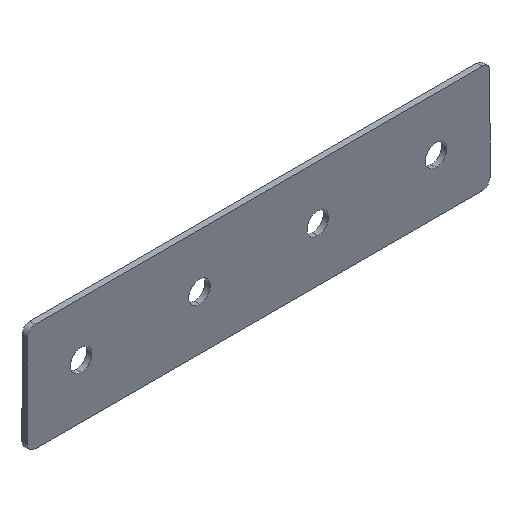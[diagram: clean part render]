
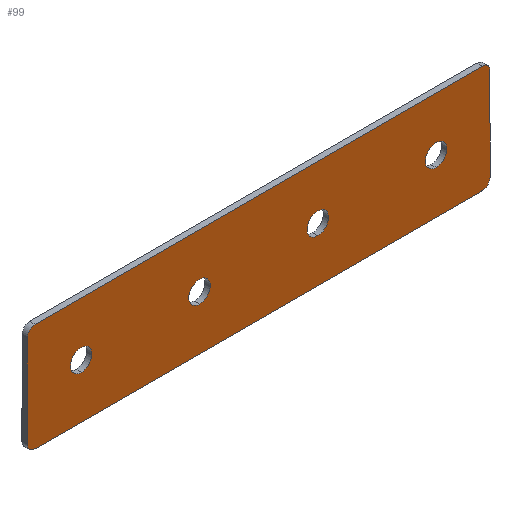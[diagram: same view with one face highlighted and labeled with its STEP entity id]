
A CAD part, isometric view. The second image highlights one B-rep face of the part: STEP entity #99.
In plain terms, the highlighted planar face has unit normal (0, -1, 0).
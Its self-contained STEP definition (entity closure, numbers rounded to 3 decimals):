
#1 = VECTOR ( 'NONE', #668, 1000. ) ;
#3 = VERTEX_POINT ( 'NONE', #23 ) ;
#8 = CIRCLE ( 'NONE', #430, 4.1 ) ;
#9 = EDGE_CURVE ( 'NONE', #91, #3, #573, .T. ) ;
#16 = ORIENTED_EDGE ( 'NONE', *, *, #61, .F. ) ;
#19 = DIRECTION ( 'NONE',  ( 0., 0., 1. ) ) ;
#20 = DIRECTION ( 'NONE',  ( 0., 0., 1. ) ) ;
#22 = EDGE_CURVE ( 'NONE', #508, #522, #559, .T. ) ;
#23 = CARTESIAN_POINT ( 'NONE',  ( 55.365, 0., 6.235 ) ) ;
#30 = EDGE_CURVE ( 'NONE', #604, #622, #361, .T. ) ;
#35 = ORIENTED_EDGE ( 'NONE', *, *, #102, .F. ) ;
#38 = CARTESIAN_POINT ( 'NONE',  ( 10.365, 0., 2.135 ) ) ;
#49 = EDGE_LOOP ( 'NONE', ( #181, #422, #655, #35, #287, #245, #492, #16 ) ) ;
#53 = CARTESIAN_POINT ( 'NONE',  ( 162.885, 0., 22.635 ) ) ;
#58 = AXIS2_PLACEMENT_3D ( 'NONE', #260, #418, #470 ) ;
#61 = EDGE_CURVE ( 'NONE', #622, #395, #128, .T. ) ;
#68 = CARTESIAN_POINT ( 'NONE',  ( 162.885, 0., -18.365 ) ) ;
#70 = DIRECTION ( 'NONE',  ( 0., 1., 0. ) ) ;
#75 = EDGE_CURVE ( 'NONE', #395, #652, #264, .T. ) ;
#83 = VERTEX_POINT ( 'NONE', #639 ) ;
#91 = VERTEX_POINT ( 'NONE', #525 ) ;
#95 = CARTESIAN_POINT ( 'NONE',  ( 10.365, 0., 2.135 ) ) ;
#99 = ADVANCED_FACE ( 'NONE', ( #556, #171, #527, #343, #510 ), #477, .F. ) ;
#102 = EDGE_CURVE ( 'NONE', #83, #385, #282, .T. ) ;
#119 = DIRECTION ( 'NONE',  ( -1., 0., 0. ) ) ;
#127 = AXIS2_PLACEMENT_3D ( 'NONE', #378, #70, #424 ) ;
#128 = LINE ( 'NONE', #321, #223 ) ;
#132 = VECTOR ( 'NONE', #227, 1000. ) ;
#141 = CIRCLE ( 'NONE', #235, 4.1 ) ;
#146 = CIRCLE ( 'NONE', #661, 4.1 ) ;
#163 = AXIS2_PLACEMENT_3D ( 'NONE', #614, #561, #443 ) ;
#167 = DIRECTION ( 'NONE',  ( 0., 1., 0. ) ) ;
#171 = FACE_BOUND ( 'NONE', #389, .T. ) ;
#173 = EDGE_CURVE ( 'NONE', #652, #425, #268, .T. ) ;
#178 = CARTESIAN_POINT ( 'NONE',  ( 165.865, 0., 19.654 ) ) ;
#180 = ORIENTED_EDGE ( 'NONE', *, *, #472, .T. ) ;
#181 = ORIENTED_EDGE ( 'NONE', *, *, #30, .F. ) ;
#187 = EDGE_CURVE ( 'NONE', #357, #604, #401, .T. ) ;
#200 = CIRCLE ( 'NONE', #433, 4.1 ) ;
#213 = AXIS2_PLACEMENT_3D ( 'NONE', #609, #335, #345 ) ;
#216 = EDGE_CURVE ( 'NONE', #425, #83, #406, .T. ) ;
#221 = CARTESIAN_POINT ( 'NONE',  ( -7.154, 0., 19.654 ) ) ;
#223 = VECTOR ( 'NONE', #528, 1000. ) ;
#227 = DIRECTION ( 'NONE',  ( 0., 0., -1. ) ) ;
#233 = CARTESIAN_POINT ( 'NONE',  ( -7.154, 0., 22.635 ) ) ;
#235 = AXIS2_PLACEMENT_3D ( 'NONE', #350, #669, #498 ) ;
#241 = CARTESIAN_POINT ( 'NONE',  ( -10.135, 0., -15.385 ) ) ;
#244 = DIRECTION ( 'NONE',  ( 0., 1., 0. ) ) ;
#245 = ORIENTED_EDGE ( 'NONE', *, *, #173, .F. ) ;
#253 = CARTESIAN_POINT ( 'NONE',  ( 100.365, 0., 2.135 ) ) ;
#260 = CARTESIAN_POINT ( 'NONE',  ( 145.365, 0., 2.135 ) ) ;
#264 = CIRCLE ( 'NONE', #542, 2.981 ) ;
#268 = LINE ( 'NONE', #648, #132 ) ;
#269 = ORIENTED_EDGE ( 'NONE', *, *, #537, .T. ) ;
#271 = DIRECTION ( 'NONE',  ( 0., 0., 1. ) ) ;
#272 = CARTESIAN_POINT ( 'NONE',  ( -7.154, 0., 19.654 ) ) ;
#279 = ORIENTED_EDGE ( 'NONE', *, *, #22, .T. ) ;
#282 = LINE ( 'NONE', #68, #411 ) ;
#283 = DIRECTION ( 'NONE',  ( 0., 1., 0. ) ) ;
#287 = ORIENTED_EDGE ( 'NONE', *, *, #216, .F. ) ;
#290 = CARTESIAN_POINT ( 'NONE',  ( -10.135, 0., -15.385 ) ) ;
#298 = EDGE_CURVE ( 'NONE', #468, #337, #453, .T. ) ;
#308 = CARTESIAN_POINT ( 'NONE',  ( 145.365, 0., 6.235 ) ) ;
#309 = AXIS2_PLACEMENT_3D ( 'NONE', #221, #167, #19 ) ;
#318 = DIRECTION ( 'NONE',  ( 0., 1., 0. ) ) ;
#321 = CARTESIAN_POINT ( 'NONE',  ( -7.154, 0., 22.635 ) ) ;
#327 = AXIS2_PLACEMENT_3D ( 'NONE', #272, #646, #20 ) ;
#330 = EDGE_CURVE ( 'NONE', #600, #349, #8, .T. ) ;
#335 = DIRECTION ( 'NONE',  ( 0., 1., 0. ) ) ;
#337 = VERTEX_POINT ( 'NONE', #663 ) ;
#338 = EDGE_CURVE ( 'NONE', #3, #91, #141, .T. ) ;
#343 = FACE_BOUND ( 'NONE', #475, .T. ) ;
#345 = DIRECTION ( 'NONE',  ( 0., 0., 1. ) ) ;
#349 = VERTEX_POINT ( 'NONE', #402 ) ;
#350 = CARTESIAN_POINT ( 'NONE',  ( 55.365, 0., 2.135 ) ) ;
#354 = DIRECTION ( 'NONE',  ( 0., 1., 0. ) ) ;
#357 = VERTEX_POINT ( 'NONE', #241 ) ;
#361 = CIRCLE ( 'NONE', #327, 2.981 ) ;
#367 = CIRCLE ( 'NONE', #213, 2.981 ) ;
#377 = CARTESIAN_POINT ( 'NONE',  ( 55.365, 0., 2.135 ) ) ;
#378 = CARTESIAN_POINT ( 'NONE',  ( 145.365, 0., 2.135 ) ) ;
#385 = VERTEX_POINT ( 'NONE', #407 ) ;
#389 = EDGE_LOOP ( 'NONE', ( #413, #531 ) ) ;
#395 = VERTEX_POINT ( 'NONE', #53 ) ;
#399 = AXIS2_PLACEMENT_3D ( 'NONE', #550, #354, #494 ) ;
#401 = LINE ( 'NONE', #290, #1 ) ;
#402 = CARTESIAN_POINT ( 'NONE',  ( 10.365, 0., 6.235 ) ) ;
#405 = EDGE_CURVE ( 'NONE', #337, #468, #200, .T. ) ;
#406 = CIRCLE ( 'NONE', #399, 2.981 ) ;
#407 = CARTESIAN_POINT ( 'NONE',  ( -7.154, 0., -18.365 ) ) ;
#408 = AXIS2_PLACEMENT_3D ( 'NONE', #377, #589, #643 ) ;
#409 = DIRECTION ( 'NONE',  ( 0., 0., -1. ) ) ;
#410 = DIRECTION ( 'NONE',  ( 0., 1., 0. ) ) ;
#411 = VECTOR ( 'NONE', #119, 1000. ) ;
#413 = ORIENTED_EDGE ( 'NONE', *, *, #338, .T. ) ;
#418 = DIRECTION ( 'NONE',  ( 0., 1., 0. ) ) ;
#421 = CARTESIAN_POINT ( 'NONE',  ( 145.365, 0., -1.965 ) ) ;
#422 = ORIENTED_EDGE ( 'NONE', *, *, #187, .F. ) ;
#424 = DIRECTION ( 'NONE',  ( 0., 0., -1. ) ) ;
#425 = VERTEX_POINT ( 'NONE', #624 ) ;
#430 = AXIS2_PLACEMENT_3D ( 'NONE', #95, #244, #446 ) ;
#433 = AXIS2_PLACEMENT_3D ( 'NONE', #253, #410, #409 ) ;
#440 = CARTESIAN_POINT ( 'NONE',  ( 10.365, 0., -1.965 ) ) ;
#443 = DIRECTION ( 'NONE',  ( 0., 0., -1. ) ) ;
#446 = DIRECTION ( 'NONE',  ( 0., 0., -1. ) ) ;
#449 = ORIENTED_EDGE ( 'NONE', *, *, #298, .T. ) ;
#453 = CIRCLE ( 'NONE', #163, 4.1 ) ;
#462 = ORIENTED_EDGE ( 'NONE', *, *, #330, .T. ) ;
#468 = VERTEX_POINT ( 'NONE', #579 ) ;
#470 = DIRECTION ( 'NONE',  ( 0., 0., -1. ) ) ;
#472 = EDGE_CURVE ( 'NONE', #522, #508, #486, .T. ) ;
#475 = EDGE_LOOP ( 'NONE', ( #180, #279 ) ) ;
#477 = PLANE ( 'NONE',  #309 ) ;
#486 = CIRCLE ( 'NONE', #58, 4.1 ) ;
#487 = DIRECTION ( 'NONE',  ( 0., 0., -1. ) ) ;
#491 = CARTESIAN_POINT ( 'NONE',  ( -10.135, 0., 19.654 ) ) ;
#492 = ORIENTED_EDGE ( 'NONE', *, *, #75, .F. ) ;
#494 = DIRECTION ( 'NONE',  ( 0., 0., 1. ) ) ;
#497 = EDGE_LOOP ( 'NONE', ( #269, #462 ) ) ;
#498 = DIRECTION ( 'NONE',  ( 0., 0., -1. ) ) ;
#508 = VERTEX_POINT ( 'NONE', #421 ) ;
#510 = FACE_OUTER_BOUND ( 'NONE', #49, .T. ) ;
#519 = EDGE_LOOP ( 'NONE', ( #578, #449 ) ) ;
#522 = VERTEX_POINT ( 'NONE', #308 ) ;
#525 = CARTESIAN_POINT ( 'NONE',  ( 55.365, 0., -1.965 ) ) ;
#527 = FACE_BOUND ( 'NONE', #519, .T. ) ;
#528 = DIRECTION ( 'NONE',  ( 1., 0., 0. ) ) ;
#531 = ORIENTED_EDGE ( 'NONE', *, *, #9, .T. ) ;
#537 = EDGE_CURVE ( 'NONE', #349, #600, #146, .T. ) ;
#542 = AXIS2_PLACEMENT_3D ( 'NONE', #642, #318, #271 ) ;
#550 = CARTESIAN_POINT ( 'NONE',  ( 162.885, 0., -15.385 ) ) ;
#556 = FACE_BOUND ( 'NONE', #497, .T. ) ;
#559 = CIRCLE ( 'NONE', #127, 4.1 ) ;
#561 = DIRECTION ( 'NONE',  ( 0., 1., 0. ) ) ;
#573 = CIRCLE ( 'NONE', #408, 4.1 ) ;
#578 = ORIENTED_EDGE ( 'NONE', *, *, #405, .T. ) ;
#579 = CARTESIAN_POINT ( 'NONE',  ( 100.365, 0., -1.965 ) ) ;
#589 = DIRECTION ( 'NONE',  ( 0., 1., 0. ) ) ;
#597 = EDGE_CURVE ( 'NONE', #385, #357, #367, .T. ) ;
#600 = VERTEX_POINT ( 'NONE', #440 ) ;
#604 = VERTEX_POINT ( 'NONE', #491 ) ;
#609 = CARTESIAN_POINT ( 'NONE',  ( -7.154, 0., -15.385 ) ) ;
#614 = CARTESIAN_POINT ( 'NONE',  ( 100.365, 0., 2.135 ) ) ;
#622 = VERTEX_POINT ( 'NONE', #233 ) ;
#624 = CARTESIAN_POINT ( 'NONE',  ( 165.865, 0., -15.385 ) ) ;
#639 = CARTESIAN_POINT ( 'NONE',  ( 162.885, 0., -18.365 ) ) ;
#642 = CARTESIAN_POINT ( 'NONE',  ( 162.885, 0., 19.654 ) ) ;
#643 = DIRECTION ( 'NONE',  ( 0., 0., -1. ) ) ;
#646 = DIRECTION ( 'NONE',  ( 0., 1., 0. ) ) ;
#648 = CARTESIAN_POINT ( 'NONE',  ( 165.865, 0., 19.654 ) ) ;
#652 = VERTEX_POINT ( 'NONE', #178 ) ;
#655 = ORIENTED_EDGE ( 'NONE', *, *, #597, .F. ) ;
#661 = AXIS2_PLACEMENT_3D ( 'NONE', #38, #283, #487 ) ;
#663 = CARTESIAN_POINT ( 'NONE',  ( 100.365, 0., 6.235 ) ) ;
#668 = DIRECTION ( 'NONE',  ( 0., 0., 1. ) ) ;
#669 = DIRECTION ( 'NONE',  ( 0., 1., 0. ) ) ;
